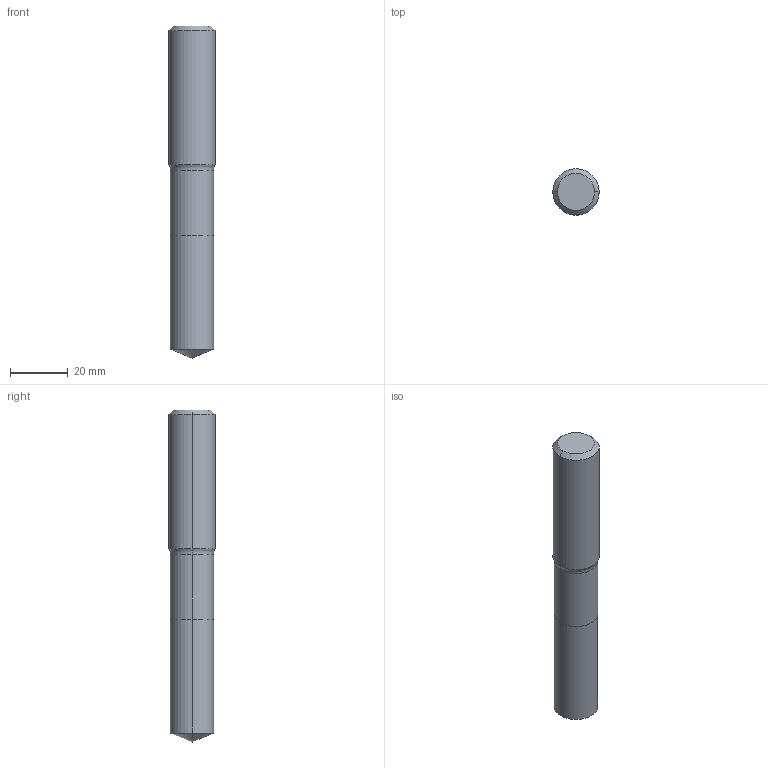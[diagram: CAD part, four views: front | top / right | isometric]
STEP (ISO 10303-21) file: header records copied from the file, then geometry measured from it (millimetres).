
FILE_DESCRIPTION (( 'STEP AP214' ), '1' );
FILE_NAME ('810.150.00_3D-model.step', '2022-02-23T22:31:31', ( '' ), ( '' ), 'SwSTEP 2.0', 'SolidWorks 2020', '' );
FILE_SCHEMA (( 'AUTOMOTIVE_DESIGN' ));
Length unit declared in the file: millimetre
Products named in the file (3): NOCUT-3D^Baugr136; CUT-3D^Baugr136; 810.150.00_3D-model
Assembly tree (2 placements, depth 2):
  810.150.00_3D-model
    CUT-3D^Baugr136
    NOCUT-3D^Baugr136
Bounding box: 16 x 16 x 115 mm (x, y, z)
Volume: 21081.5 mm3; surface area: 6125.3 mm2
Topology: 2 solids, 2 shells, 15 faces, 28 edges, 15 vertices
Faces by surface type: cylinder 6, cone 4, plane 3, torus 2
Entity records: 482 total; most frequent: DIRECTION 88, CARTESIAN_POINT 64, ORIENTED_EDGE 52, AXIS2_PLACEMENT_3D 39, EDGE_CURVE 26, CIRCLE 16, FACE_OUTER_BOUND 15, EDGE_LOOP 15
